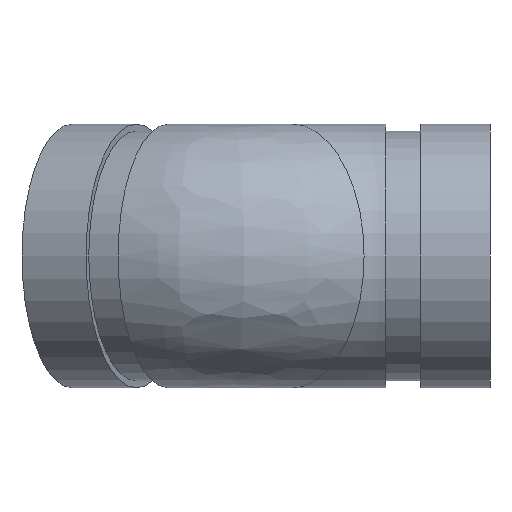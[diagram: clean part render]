
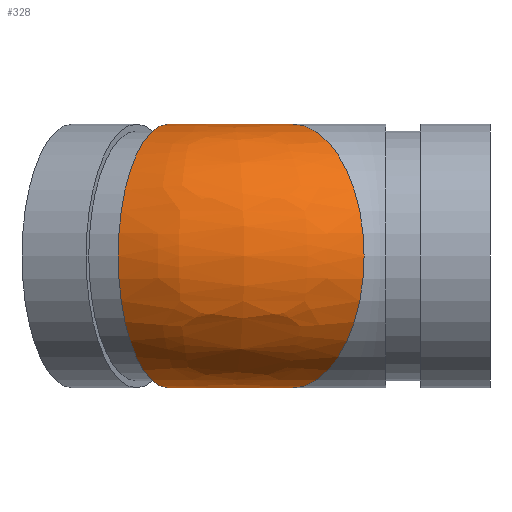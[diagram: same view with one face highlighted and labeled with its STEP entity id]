
A CAD part, left-side view. The second image highlights one B-rep face of the part: STEP entity #328.
In plain terms, the highlighted free-form (B-spline) face has degree [2, 2] with [9, 3] control points.
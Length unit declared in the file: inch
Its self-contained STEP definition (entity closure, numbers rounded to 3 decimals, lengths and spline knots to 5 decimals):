
#63=(
BOUNDED_SURFACE()
B_SPLINE_SURFACE(2,2,((#592,#593,#594),(#595,#596,#597),(#598,#599,#600),
(#601,#602,#603),(#604,#605,#606),(#607,#608,#609),(#610,#611,#612),(#613,
#614,#615),(#616,#617,#618)),.UNSPECIFIED.,.T.,.F.,.F.)
B_SPLINE_SURFACE_WITH_KNOTS((3,2,2,2,3),(3,3),(-3.14159,-1.5708,
0.,1.5708,3.14159),(-0.58177,0.3927),
 .UNSPECIFIED.)
GEOMETRIC_REPRESENTATION_ITEM()
RATIONAL_B_SPLINE_SURFACE(((1.,0.884,1.),(0.707,
0.625,0.707),(1.,0.884,1.),(0.707,
0.625,0.707),(1.,0.884,1.),(0.707,
0.625,0.707),(1.,0.884,1.),(0.707,
0.625,0.707),(1.,0.884,1.)))
REPRESENTATION_ITEM('')
SURFACE()
);
#77=FACE_OUTER_BOUND('',#95,.T.);
#95=EDGE_LOOP('',(#238,#239,#240));
#115=CIRCLE('',#366,1.1875);
#127=CIRCLE('',#380,1.1875);
#128=CIRCLE('',#381,1.1875);
#150=VERTEX_POINT('',#568);
#160=VERTEX_POINT('',#619);
#181=EDGE_CURVE('',#150,#150,#115,.T.);
#193=EDGE_CURVE('',#150,#160,#127,.T.);
#194=EDGE_CURVE('',#160,#150,#128,.T.);
#238=ORIENTED_EDGE('',*,*,#193,.T.);
#239=ORIENTED_EDGE('',*,*,#194,.T.);
#240=ORIENTED_EDGE('',*,*,#181,.F.);
#328=ADVANCED_FACE('',(#77),#63,.F.);
#366=AXIS2_PLACEMENT_3D('',#569,#437,#438);
#380=AXIS2_PLACEMENT_3D('',#620,#465,#466);
#381=AXIS2_PLACEMENT_3D('',#621,#467,#468);
#437=DIRECTION('center_axis',(0.383,0.924,0.));
#438=DIRECTION('ref_axis',(-0.924,0.383,0.));
#465=DIRECTION('center_axis',(-0.549,0.835,0.));
#466=DIRECTION('ref_axis',(-0.835,-0.549,0.));
#467=DIRECTION('center_axis',(-0.549,0.835,0.));
#468=DIRECTION('ref_axis',(-0.835,-0.549,0.));
#568=CARTESIAN_POINT('',(0.73815,2.43896,0.));
#569=CARTESIAN_POINT('Origin',(-0.35896,2.8934,0.));
#592=CARTESIAN_POINT('Ctrl Pts',(0.73815,2.43896,0.));
#593=CARTESIAN_POINT('Ctrl Pts',(0.73815,2.43896,0.));
#594=CARTESIAN_POINT('Ctrl Pts',(0.73815,2.43896,0.));
#595=CARTESIAN_POINT('Ctrl Pts',(0.73815,2.43896,1.1875));
#596=CARTESIAN_POINT('Ctrl Pts',(0.73815,2.43896,1.1875));
#597=CARTESIAN_POINT('Ctrl Pts',(0.73815,2.43896,1.1875));
#598=CARTESIAN_POINT('Ctrl Pts',(-0.254,1.78643,1.1875));
#599=CARTESIAN_POINT('Ctrl Pts',(-0.59973,2.31211,1.1875));
#600=CARTESIAN_POINT('Ctrl Pts',(-0.35896,2.8934,1.1875));
#601=CARTESIAN_POINT('Ctrl Pts',(-1.24615,1.1339,1.1875));
#602=CARTESIAN_POINT('Ctrl Pts',(-1.93762,2.18526,1.1875));
#603=CARTESIAN_POINT('Ctrl Pts',(-1.45606,3.34784,1.1875));
#604=CARTESIAN_POINT('Ctrl Pts',(-1.24615,1.1339,0.));
#605=CARTESIAN_POINT('Ctrl Pts',(-1.93762,2.18526,0.));
#606=CARTESIAN_POINT('Ctrl Pts',(-1.45606,3.34784,0.));
#607=CARTESIAN_POINT('Ctrl Pts',(-1.24615,1.1339,-1.1875));
#608=CARTESIAN_POINT('Ctrl Pts',(-1.93762,2.18526,-1.1875));
#609=CARTESIAN_POINT('Ctrl Pts',(-1.45606,3.34784,-1.1875));
#610=CARTESIAN_POINT('Ctrl Pts',(-0.254,1.78643,-1.1875));
#611=CARTESIAN_POINT('Ctrl Pts',(-0.59973,2.31211,-1.1875));
#612=CARTESIAN_POINT('Ctrl Pts',(-0.35896,2.8934,-1.1875));
#613=CARTESIAN_POINT('Ctrl Pts',(0.73815,2.43896,-1.1875));
#614=CARTESIAN_POINT('Ctrl Pts',(0.73815,2.43896,-1.1875));
#615=CARTESIAN_POINT('Ctrl Pts',(0.73815,2.43896,-1.1875));
#616=CARTESIAN_POINT('Ctrl Pts',(0.73815,2.43896,0.));
#617=CARTESIAN_POINT('Ctrl Pts',(0.73815,2.43896,0.));
#618=CARTESIAN_POINT('Ctrl Pts',(0.73815,2.43896,0.));
#619=CARTESIAN_POINT('',(-1.24615,1.1339,0.));
#620=CARTESIAN_POINT('Origin',(-0.254,1.78643,0.));
#621=CARTESIAN_POINT('Origin',(-0.254,1.78643,0.));
